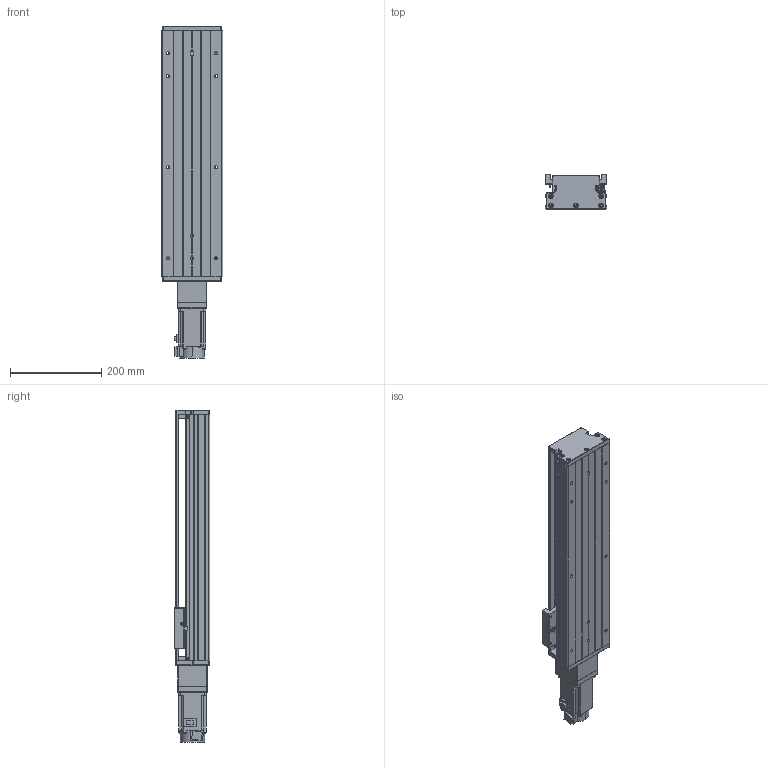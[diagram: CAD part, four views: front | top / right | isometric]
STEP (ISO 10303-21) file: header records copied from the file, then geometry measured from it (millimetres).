
FILE_DESCRIPTION (( 'STEP AP203' ), '1' );
FILE_NAME ('KTH130-400-BC-M40-C4.step', '2023-06-30T03:54:04', ( '微软用户' ), ( '微软中国' ), 'SwSTEP 2.0', 'SolidWorks 2020', '' );
FILE_SCHEMA (( 'CONFIG_CONTROL_DESIGN' ));
Length unit declared in the file: millimetre
Products named in the file (19): KTH130-004; CTHA60-016; CTHA86-027-1; KTH130-005; GBT 70.1-M3℅5; HG-KN43J-S100; GB1155-6X6; GBT77-2000 M3×3; GBT70.1 M5℅16; す晦芛蹟隊 M3℅5; KTH130-400-BC-M40-C4; GBT 70.2-M3¡Á5_M3¡Á6; GBT 70.3-M3℅8; GTH14-001_400; CTHA60-017; CTHA86-006-1_M40; KTH130-002_KTH130-002; EE_SX911P_R; CTHA86-013
Assembly tree (52 placements, depth 2):
  KTH130-400-BC-M40-C4
    GTH14-001_400
    KTH130-002_KTH130-002
    KTH130-004
    KTH130-005
    GB1155-6X6  x2
    GBT70.1 M5℅16  x10
    GBT 70.2-M3¡Á5_M3¡Á6  x4
    CTHA60-017  x3
    EE_SX911P_R  x3
    CTHA60-016  x2
    GBT 70.1-M3℅5  x6
    GBT77-2000 M3×3  x6
    す晦芛蹟隊 M3℅5  x2
    GBT 70.3-M3℅8  x6
    CTHA86-006-1_M40
    CTHA86-013
    CTHA86-027-1
    HG-KN43J-S100
Bounding box: 135 x 78 x 728.7 mm (x, y, z)
Volume: 3698510.5 mm3; surface area: 584738.3 mm2
Topology: 55 solids, 55 shells, 2172 faces, 5254 edges, 3278 vertices
Faces by surface type: plane 1192, cylinder 592, cone 280, torus 96, sphere 12
Entity records: 39574 total; most frequent: CARTESIAN_POINT 8426, DIRECTION 5865, ORIENTED_EDGE 5792, EDGE_CURVE 2896, AXIS2_PLACEMENT_3D 1991, LINE 1883, VECTOR 1883, VERTEX_POINT 1850
